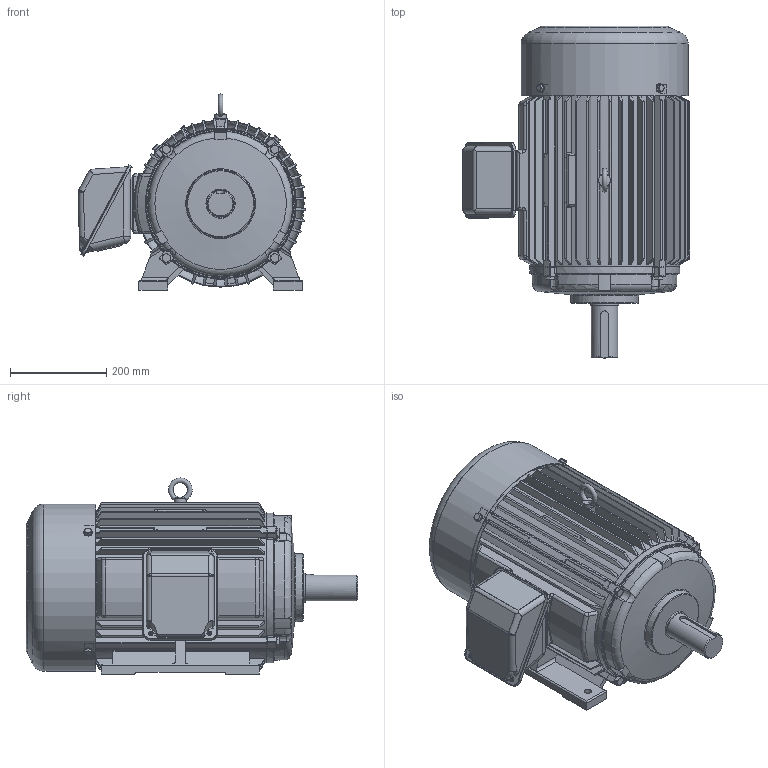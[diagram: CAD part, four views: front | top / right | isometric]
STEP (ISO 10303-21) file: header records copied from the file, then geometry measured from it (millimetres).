
FILE_DESCRIPTION(/* description */ ('Unknown'),/* implementation_level */ '2;1');
FILE_NAME(/* name */ '1-SMA-39875_외형도(300DIA)',/* time_stamp */ '2026-07-24T08:32:34+09:00',/* author */ ('Unknown'),/* organization */ ('Unknown'),/* preprocessor_version */ 'ST-DEVELOPER v16',/* originating_system */ 'DEX',/* authorisation */ $);
FILE_SCHEMA (('AUTOMOTIVE_DESIGN {1 0 10303 214 3 1 1}'));
Products named in the file (19): 1-SMA-39875_寇屈档(300DI_and_time_assignment; 2-SMA-31399_FRAME(300DIA); 3-SMA-38328_¾Õºê¶óÄÏ(300DÅ¾|·Ï(; 4-SMA-30957_µÚºê¶óÄÏ(300DÆÖÄ³(; 5-SMA-38361_SHAFT(300DIA); 6-SMA-31246_FAN(300DIA); 7-SMA-30959_FAN COVER(300DIA); I獐お M12x1.75x22; 幫陝獐お M10x1.5x; 幫陝Ы楠雖 M8x1.25; 18.5~37kW_攪嘐割 夢蝶(300~330; T-BOX憶っ(300~330DIA; 18.5~37kW_ｰ晥ｫﾆﾐﾅｷ(300~330Dﾐ(; 褊濠 菅斬 該葬 獐お M5x; 9-SMA-33053_T-BOX(ж); 8-SMA-33052_T-BOX(鼻); 6309ZZ; 蹴辨 S4; 6312ZZ
Assembly tree (29 placements, depth 3):
  1-SMA-39875_寇屈档(300DI_and_time_assignment
    2-SMA-31399_FRAME(300DIA)
    3-SMA-38328_¾Õºê¶óÄÏ(300DÅ¾|·Ï(
    4-SMA-30957_µÚºê¶óÄÏ(300DÆÖÄ³(
    5-SMA-38361_SHAFT(300DIA)
    6-SMA-31246_FAN(300DIA)
    7-SMA-30959_FAN COVER(300DIA)
    I獐お M12x1.75x22
    幫陝獐お M10x1.5x  x8
    幫陝Ы楠雖 M8x1.25  x4
    18.5~37kW_攪嘐割 夢蝶(300~330
      T-BOX憶っ(300~330DIA
      18.5~37kW_ｰ晥ｫﾆﾐﾅｷ(300~330Dﾐ(
      褊濠 菅斬 該葬 獐お M5x  x2
      9-SMA-33053_T-BOX(ж)
      8-SMA-33052_T-BOX(鼻)
    6309ZZ
    蹴辨 S4
    6312ZZ
Bounding box: 473.41 x 690.99 x 408.5 mm (x, y, z)
Volume: 9949212.9 mm3; surface area: 3066229.6 mm2
Topology: 50 solids, 50 shells, 2094 faces, 5321 edges, 3310 vertices
Faces by surface type: plane 692, cylinder 584, cone 327, bspline 242, torus 209, sphere 40
Full cylindrical faces by diameter (mm): 2.2 x4, 2.5 x2, 4.134 x2, 4.917 x2, 5 x2, 6 x6, 6.647 x4, 7 x2, 8 x10, 8.376 x16, 9 x2, 10 x16, 10.106 x1, 12 x10, 15 x4, 17.5 x4, 25 x1, 39.5 x1, 40 x1, 44.7 x1, 45 x2, 45.8 x1, 50 x2, 55 x1, 58 x1, 59.8 x1, 60 x2, 60.714 x2, 60.8 x1, 61.114 x2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
Entity records: 85792 total; most frequent: CARTESIAN_POINT 38266, ORIENTED_EDGE 9054, DIRECTION 8403, EDGE_CURVE 4527, AXIS2_PLACEMENT_3D 3451, VERTEX_POINT 2972, FACE_BOUND 2289, EDGE_LOOP 2262
